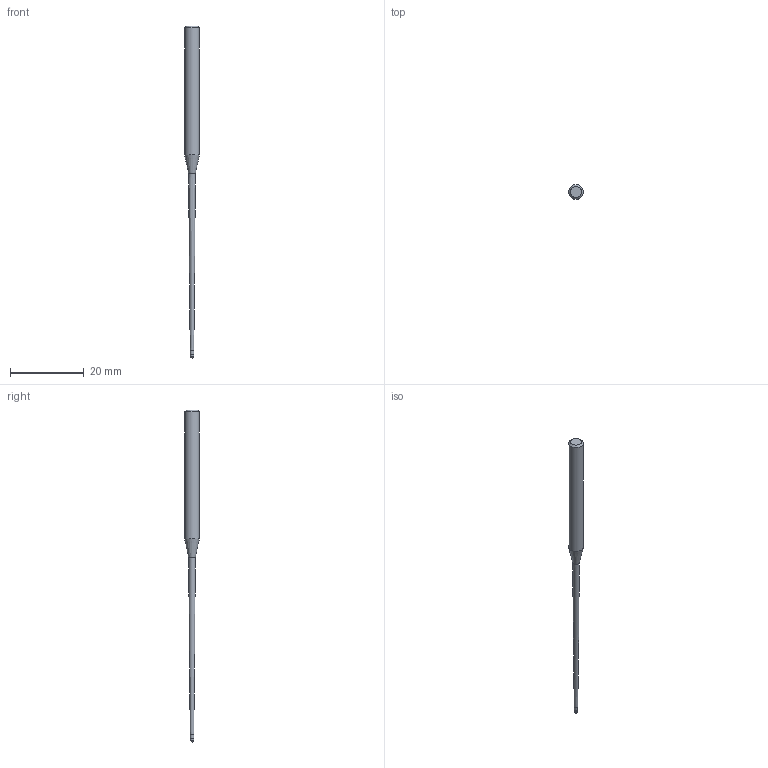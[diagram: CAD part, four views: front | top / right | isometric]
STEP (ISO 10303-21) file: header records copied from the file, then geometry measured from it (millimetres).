
FILE_DESCRIPTION((''),'2;1');
FILE_NAME('C:\Users\nsx150\AppData\Local\Temp\Mastercam 2021\SNAKH10GOD\TEMP.step','2021-10-21T13:32:08',(''),(''),'STEP Write','Mastercam 2021 ... CNC Software, Inc.','');
FILE_SCHEMA(('AUTOMOTIVE_DESIGN'));
Length unit declared in the file: millimetre
Products named in the file (1): None
Bounding box: 4 x 4 x 90 mm (x, y, z)
Volume: 551.9 mm3; surface area: 715.8 mm2
Topology: 2 solids, 2 shells, 10 faces, 16 edges, 9 vertices
Faces by surface type: plane 3, cylinder 3, cone 3, sphere 1
Full cylindrical faces by diameter (mm): 0.985 x1, 1 x1, 4 x1
Entity records: 232 total; most frequent: DIRECTION 40, CARTESIAN_POINT 28, AXIS2_PLACEMENT_3D 20, ORIENTED_EDGE 16, EDGE_LOOP 16, STYLED_ITEM 13, ADVANCED_FACE 10, FACE_BOUND 9
